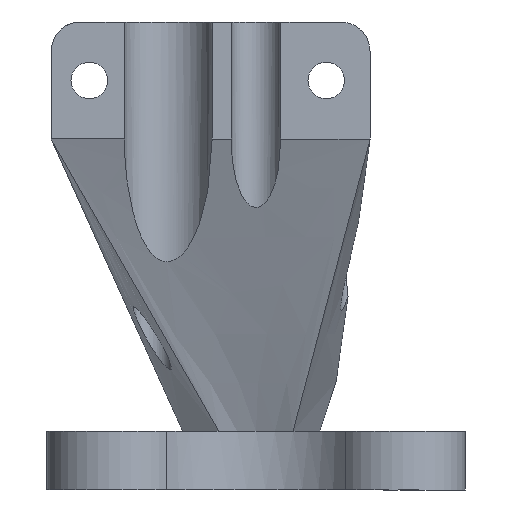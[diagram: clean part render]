
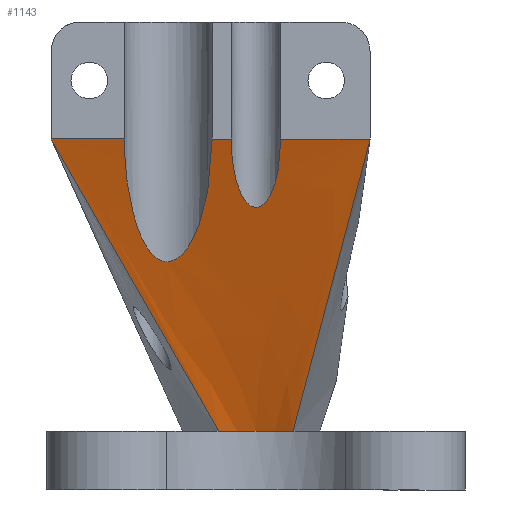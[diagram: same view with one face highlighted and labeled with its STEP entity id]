
A CAD part, front view. The second image highlights one B-rep face of the part: STEP entity #1143.
In plain terms, the highlighted free-form (B-spline) face has degree [3, 3] with [4, 4] control points.
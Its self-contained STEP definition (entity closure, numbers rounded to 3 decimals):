
#60=B_SPLINE_SURFACE_WITH_KNOTS('',3,3,((#2293,#2294,#2295,#2296),(#2297,
#2298,#2299,#2300),(#2301,#2302,#2303,#2304),(#2305,#2306,#2307,#2308)),
 .UNSPECIFIED.,.F.,.F.,.U.,(4,4),(4,4),(0.,1.),(0.,1.),.UNSPECIFIED.);
#154=VECTOR('',#1528,1.);
#234=LINE('',#2309,#154);
#284=CIRCLE('',#1260,9.525);
#290=B_SPLINE_CURVE_WITH_KNOTS('',3,(#1679,#1680,#1681,#1682),
 .UNSPECIFIED.,.F.,.U.,(4,4),(0.,1.),.UNSPECIFIED.);
#298=B_SPLINE_CURVE_WITH_KNOTS('',3,(#2240,#2241,#2242,#2243,#2244,#2245,
#2246,#2247,#2248,#2249,#2250,#2251,#2252,#2253,#2254,#2255,#2256,#2257,
#2258,#2259,#2260,#2261,#2262,#2263),.UNSPECIFIED.,.F.,.U.,(4,2,2,2,2,2,
2,2,2,2,2,4),(-1.12,-1.003,-0.821,-0.726,
-0.672,-0.639,-0.611,-0.578,
-0.544,-0.5,-0.408,0.),
 .UNSPECIFIED.);
#299=B_SPLINE_CURVE_WITH_KNOTS('',3,(#2269,#2270,#2271,#2272,#2273,#2274,
#2275,#2276,#2277,#2278,#2279,#2280,#2281,#2282,#2283,#2284,#2285,#2286,
#2287,#2288,#2289,#2290),.UNSPECIFIED.,.F.,.U.,(4,2,2,2,2,2,2,2,2,2,4),
(-0.945,-0.906,-0.561,-0.449,
-0.412,-0.387,-0.364,-0.337,
-0.291,-0.203,0.),.UNSPECIFIED.);
#300=B_SPLINE_CURVE_WITH_KNOTS('',3,(#2311,#2312,#2313,#2314),
 .UNSPECIFIED.,.F.,.U.,(4,4),(0.,1.),.UNSPECIFIED.);
#311=VERTEX_POINT('',#1609);
#323=VERTEX_POINT('',#1678);
#336=VERTEX_POINT('',#1881);
#409=VERTEX_POINT('',#2239);
#410=VERTEX_POINT('',#2264);
#411=VERTEX_POINT('',#2268);
#412=VERTEX_POINT('',#2291);
#413=VERTEX_POINT('',#2310);
#460=EDGE_CURVE('',#323,#311,#290,.T.);
#584=EDGE_CURVE('',#410,#409,#298,.T.);
#587=EDGE_CURVE('',#412,#411,#299,.T.);
#589=EDGE_CURVE('',#413,#409,#234,.T.);
#590=EDGE_CURVE('',#413,#336,#300,.T.);
#591=EDGE_CURVE('',#311,#336,#284,.T.);
#592=EDGE_CURVE('',#412,#323,#234,.T.);
#593=EDGE_CURVE('',#410,#411,#234,.T.);
#866=ORIENTED_EDGE('',*,*,#584,.T.);
#867=ORIENTED_EDGE('',*,*,#589,.F.);
#868=ORIENTED_EDGE('',*,*,#590,.T.);
#869=ORIENTED_EDGE('',*,*,#591,.F.);
#870=ORIENTED_EDGE('',*,*,#460,.F.);
#871=ORIENTED_EDGE('',*,*,#592,.F.);
#872=ORIENTED_EDGE('',*,*,#587,.T.);
#873=ORIENTED_EDGE('',*,*,#593,.F.);
#999=EDGE_LOOP('',(#866,#867,#868,#869,#870,#871,#872,#873));
#1076=FACE_BOUND('',#999,.T.);
#1143=ADVANCED_FACE('',(#1076),#60,.F.);
#1260=AXIS2_PLACEMENT_3D('',#2315,#1529,#1530);
#1528=DIRECTION('',(1.,0.,0.));
#1529=DIRECTION('',(0.,1.,0.));
#1530=DIRECTION('',(9.525,0.,0.));
#1609=CARTESIAN_POINT('',(3.21,19.622,-8.714));
#1678=CARTESIAN_POINT('',(9.906,45.022,0.));
#1679=CARTESIAN_POINT('',(9.906,45.022,0.));
#1680=CARTESIAN_POINT('',(7.674,36.555,-2.905));
#1681=CARTESIAN_POINT('',(5.442,28.088,-5.809));
#1682=CARTESIAN_POINT('',(3.21,19.622,-8.714));
#1881=CARTESIAN_POINT('',(-3.21,19.622,-8.714));
#2239=CARTESIAN_POINT('',(-11.43,45.022,0.));
#2240=CARTESIAN_POINT('',(-3.81,45.022,0.));
#2241=CARTESIAN_POINT('',(-3.81,43.843,-0.43));
#2242=CARTESIAN_POINT('',(-3.883,42.64,-0.869));
#2243=CARTESIAN_POINT('',(-4.275,39.67,-1.953));
#2244=CARTESIAN_POINT('',(-4.688,38.079,-2.532));
#2245=CARTESIAN_POINT('',(-5.52,36.212,-3.2));
#2246=CARTESIAN_POINT('',(-5.834,35.688,-3.384));
#2247=CARTESIAN_POINT('',(-6.353,35.062,-3.599));
#2248=CARTESIAN_POINT('',(-6.572,34.844,-3.672));
#2249=CARTESIAN_POINT('',(-6.976,34.572,-3.758));
#2250=CARTESIAN_POINT('',(-7.145,34.486,-3.785));
#2251=CARTESIAN_POINT('',(-7.477,34.387,-3.81));
#2252=CARTESIAN_POINT('',(-7.631,34.366,-3.813));
#2253=CARTESIAN_POINT('',(-7.974,34.381,-3.798));
#2254=CARTESIAN_POINT('',(-8.15,34.427,-3.777));
#2255=CARTESIAN_POINT('',(-8.489,34.58,-3.714));
#2256=CARTESIAN_POINT('',(-8.645,34.686,-3.672));
#2257=CARTESIAN_POINT('',(-8.971,34.963,-3.568));
#2258=CARTESIAN_POINT('',(-9.135,35.148,-3.5));
#2259=CARTESIAN_POINT('',(-9.579,35.738,-3.285));
#2260=CARTESIAN_POINT('',(-9.826,36.211,-3.117));
#2261=CARTESIAN_POINT('',(-10.896,38.675,-2.246));
#2262=CARTESIAN_POINT('',(-11.43,41.774,-1.164));
#2263=CARTESIAN_POINT('',(-11.43,45.022,0.));
#2264=CARTESIAN_POINT('',(-3.81,45.022,0.));
#2268=CARTESIAN_POINT('',(-2.159,45.022,0.));
#2269=CARTESIAN_POINT('',(2.159,45.022,0.));
#2270=CARTESIAN_POINT('',(2.159,44.855,-0.06));
#2271=CARTESIAN_POINT('',(2.156,44.688,-0.12));
#2272=CARTESIAN_POINT('',(2.107,43.063,-0.706));
#2273=CARTESIAN_POINT('',(1.872,41.696,-1.2));
#2274=CARTESIAN_POINT('',(1.36,40.361,-1.686));
#2275=CARTESIAN_POINT('',(1.145,39.881,-1.861));
#2276=CARTESIAN_POINT('',(0.736,39.415,-2.033));
#2277=CARTESIAN_POINT('',(0.62,39.308,-2.073));
#2278=CARTESIAN_POINT('',(0.4,39.171,-2.124));
#2279=CARTESIAN_POINT('',(0.303,39.128,-2.14));
#2280=CARTESIAN_POINT('',(0.103,39.08,-2.159));
#2281=CARTESIAN_POINT('',(0.005,39.075,-2.161));
#2282=CARTESIAN_POINT('',(-0.209,39.104,-2.152));
#2283=CARTESIAN_POINT('',(-0.318,39.144,-2.138));
#2284=CARTESIAN_POINT('',(-0.59,39.295,-2.084));
#2285=CARTESIAN_POINT('',(-0.738,39.436,-2.034));
#2286=CARTESIAN_POINT('',(-1.094,39.866,-1.879));
#2287=CARTESIAN_POINT('',(-1.309,40.258,-1.736));
#2288=CARTESIAN_POINT('',(-1.919,41.863,-1.152));
#2289=CARTESIAN_POINT('',(-2.159,43.408,-0.588));
#2290=CARTESIAN_POINT('',(-2.159,45.022,0.));
#2291=CARTESIAN_POINT('',(2.159,45.022,0.));
#2293=CARTESIAN_POINT('',(-17.78,45.022,0.));
#2294=CARTESIAN_POINT('',(-12.923,36.555,-2.905));
#2295=CARTESIAN_POINT('',(-8.066,28.088,-5.809));
#2296=CARTESIAN_POINT('',(-3.21,19.622,-8.714));
#2297=CARTESIAN_POINT('',(-8.551,45.022,0.));
#2298=CARTESIAN_POINT('',(-6.086,36.555,-3.15));
#2299=CARTESIAN_POINT('',(-3.62,28.088,-6.3));
#2300=CARTESIAN_POINT('',(-1.155,19.622,-9.449));
#2301=CARTESIAN_POINT('',(0.677,45.022,0.));
#2302=CARTESIAN_POINT('',(0.836,36.555,-3.15));
#2303=CARTESIAN_POINT('',(0.996,28.088,-6.3));
#2304=CARTESIAN_POINT('',(1.155,19.622,-9.449));
#2305=CARTESIAN_POINT('',(9.906,45.022,0.));
#2306=CARTESIAN_POINT('',(7.674,36.555,-2.905));
#2307=CARTESIAN_POINT('',(5.442,28.088,-5.809));
#2308=CARTESIAN_POINT('',(3.21,19.622,-8.714));
#2309=CARTESIAN_POINT('',(-17.78,45.022,0.));
#2310=CARTESIAN_POINT('',(-17.78,45.022,0.));
#2311=CARTESIAN_POINT('',(-17.78,45.022,0.));
#2312=CARTESIAN_POINT('',(-12.923,36.555,-2.905));
#2313=CARTESIAN_POINT('',(-8.066,28.088,-5.809));
#2314=CARTESIAN_POINT('',(-3.21,19.622,-8.714));
#2315=CARTESIAN_POINT('',(0.,19.622,0.254));
